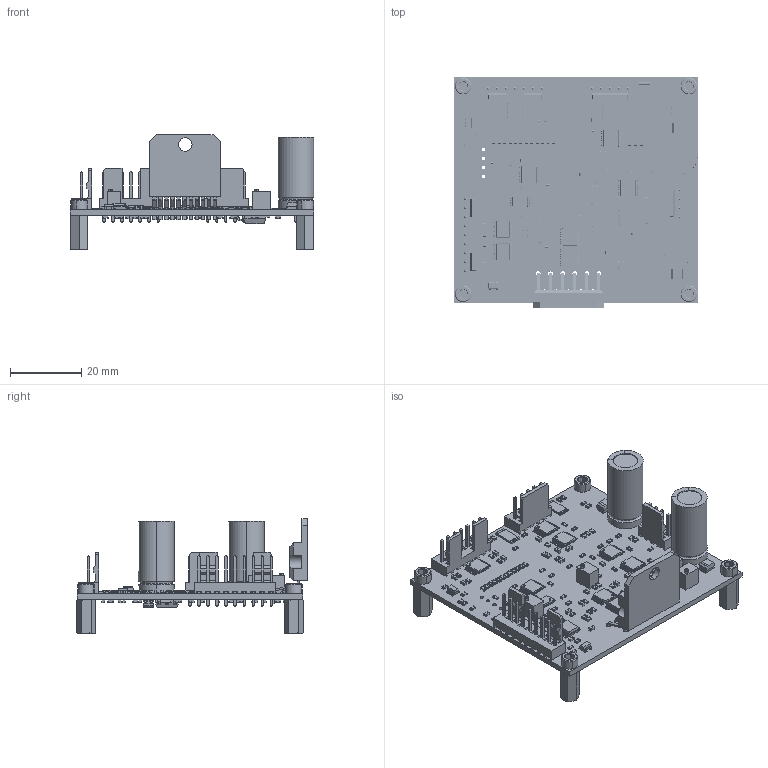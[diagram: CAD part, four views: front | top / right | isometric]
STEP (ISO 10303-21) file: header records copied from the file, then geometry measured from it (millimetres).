
FILE_DESCRIPTION (( 'STEP AP203' ), '1' );
FILE_NAME ('OIMC101A REV B, Small OEM Ctrl.STEP', '2021-04-30T17:14:02', ( '' ), ( '' ), 'SwSTEP 2.0', 'SolidWorks 2017', '' );
FILE_SCHEMA (( 'CONFIG_CONTROL_DESIGN' ));
Length unit declared in the file: inch
Products named in the file (38): TSSOP-14_4.4x5mm_P0.65mm_1; User Library-Capacitor, Al El, Thru Mt, 2200uF, 25V - CDE #SEK222M025ST; COMPOUND_2; SOLID_33; 92196A105; Molex_KK-254_AE-6410-07A_1x07_P2.54mm_Vertical_1; TO-220-11_P3.4x5.08mm_StaggerOdd_Lead4.85mm_Vertical_1; TSSOP-16_4.4x5mm_P0.65mm_1; SOLID_30; SOLID_38; SOLID_43; SOLID_39; R_2512_6332Metric_1; SOLID_31; Small Pot; SOLID_41; Molex_KK-254_AE-6410-09A_1x09_P2.54mm_Vertical_1; SOLID_29; OIMC101_1; TO-252-2_2; TSSOP-8_4.4x3mm_P0.65mm_2; R_0603_1608Metric_2; SOLID_42; SOLID_37; OIMC101A REV B, Small OEM Ctrl; SOLID_34; SOIC-8_3.9x4.9mm_P1.27mm_1; SOLID_36; SOT-23-5_2; SOLID_35; SOLID_32; C_0603_1608Metric_2; Molex_KK-254_AE-6410-04A_1x04_P2.54mm_Vertical_1; Parts OIMC101 REV NC, SMALL OEM CONTROLLER; Standoff 91780A529; Molex_KK-254_AE-6410-05A_1x05_P2.54mm_Vertical_1; CP_EIA-3528-21_Kemet-B_1; SOLID_28
Assembly tree (198 placements, depth 4):
  OIMC101A REV B, Small OEM Ctrl
    Parts OIMC101 REV NC, SMALL OEM CONTROLLER
      Standoff 91780A529  x4
      User Library-Capacitor, Al El, Thru Mt, 2200uF, 25V - CDE #SEK222M025ST  x2
      92196A105  x4
      Small Pot  x4
    OIMC101_1
      C_0603_1608Metric_2  x48
        SOLID_28
      R_0603_1608Metric_2  x94
        SOLID_29
      R_2512_6332Metric_1  x2
        SOLID_30
      CP_EIA-3528-21_Kemet-B_1  x3
        SOLID_31
      Molex_KK-254_AE-6410-09A_1x09_P2.54mm_Vertical_1
        SOLID_32
      Molex_KK-254_AE-6410-04A_1x04_P2.54mm_Vertical_1
        SOLID_33
      Molex_KK-254_AE-6410-05A_1x05_P2.54mm_Vertical_1
        SOLID_34
      Molex_KK-254_AE-6410-07A_1x07_P2.54mm_Vertical_1
        SOLID_35
      TO-220-11_P3.4x5.08mm_StaggerOdd_Lead4.85mm_Vertical_1
        SOLID_36
      TSSOP-8_4.4x3mm_P0.65mm_2
        SOLID_37
      TSSOP-16_4.4x5mm_P0.65mm_1
        SOLID_38
      TSSOP-14_4.4x5mm_P0.65mm_1  x7
        SOLID_39
      SOIC-8_3.9x4.9mm_P1.27mm_1  x2
        SOLID_41
      SOT-23-5_2  x2
        SOLID_42
      TO-252-2_2
        SOLID_43
      COMPOUND_2
Bounding box: 68.58 x 65.05 x 32.27 mm (x, y, z)
Volume: 14338.9 mm3; surface area: 19698.4 mm2
Topology: 181 solids, 181 shells, 7319 faces, 19513 edges, 12762 vertices
Faces by surface type: plane 4736, cylinder 2423, cone 124, bspline 20, torus 16
Entity records: 79705 total; most frequent: CARTESIAN_POINT 17224, ORIENTED_EDGE 11266, DIRECTION 11058, EDGE_CURVE 5633, LINE 4538, VECTOR 4538, VERTEX_POINT 3627, AXIS2_PLACEMENT_3D 3260
